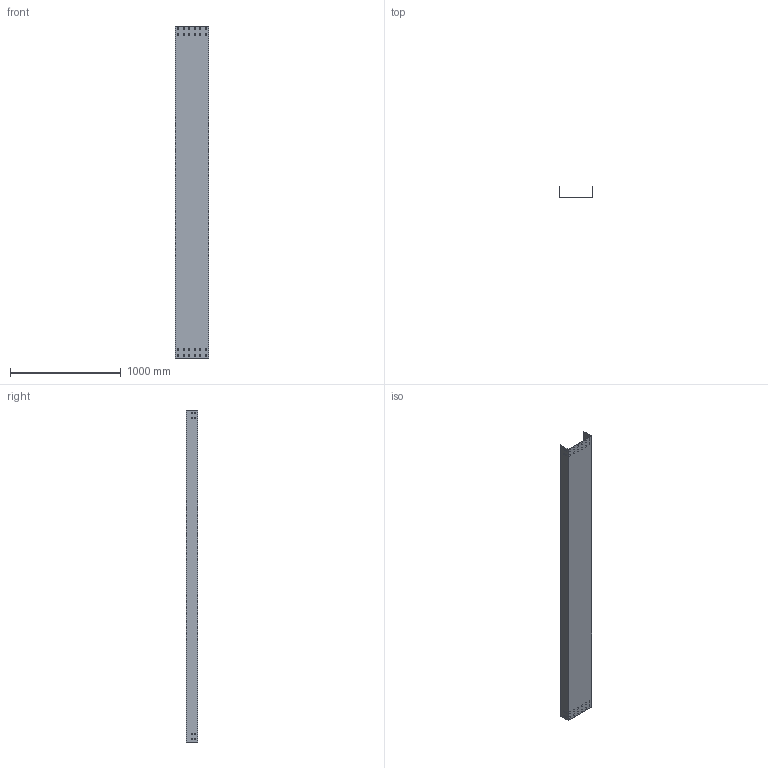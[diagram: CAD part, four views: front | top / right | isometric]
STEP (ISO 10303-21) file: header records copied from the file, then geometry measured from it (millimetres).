
FILE_DESCRIPTION (( 'STEP AP214' ), '1' );
FILE_NAME ('CF_301.step', '2025-07-16T09:05:46', ( '' ), ( '' ), 'SwSTEP 2.0', 'SolidWorks 2023', '' );
FILE_SCHEMA (( 'AUTOMOTIVE_DESIGN' ));
Length unit declared in the file: millimetre
Products named in the file (1): CF_301
Bounding box: 300 x 100 x 3000 mm (x, y, z)
Volume: 2229780 mm3; surface area: 2986291 mm2
Topology: 1 solids, 1 shells, 170 faces, 504 edges, 336 vertices
Faces by surface type: plane 170
Entity records: 5751 total; most frequent: CARTESIAN_POINT 1011, ORIENTED_EDGE 1008, DIRECTION 846, EDGE_CURVE 504, LINE 504, VECTOR 504, VERTEX_POINT 336, EDGE_LOOP 250
